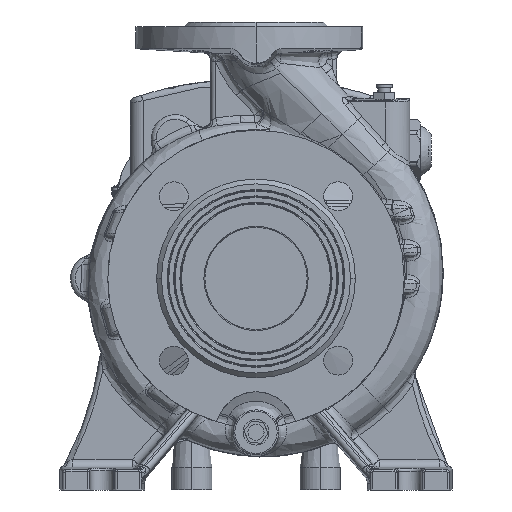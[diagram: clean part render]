
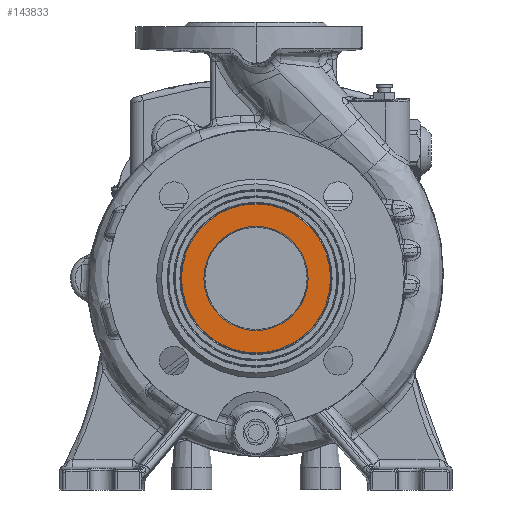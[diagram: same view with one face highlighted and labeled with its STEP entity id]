
A CAD part, left-side view. The second image highlights one B-rep face of the part: STEP entity #143833.
In plain terms, the highlighted planar face has unit normal (-1, 0, 0).
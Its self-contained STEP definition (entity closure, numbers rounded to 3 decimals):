
#4533 = CARTESIAN_POINT ( 'NONE',  ( -56., 46.5, 0. ) ) ;
#6979 = AXIS2_PLACEMENT_3D ( 'NONE', #115664, #71587, #173242 ) ;
#18674 = DIRECTION ( 'NONE',  ( 0., -1., 0. ) ) ;
#18725 = VERTEX_POINT ( 'NONE', #175329 ) ;
#19993 = CIRCLE ( 'NONE', #59820, 46.5 ) ;
#33572 = CARTESIAN_POINT ( 'NONE',  ( -56., 0., -46.5 ) ) ;
#37450 = CARTESIAN_POINT ( 'NONE',  ( -56., 32.5, 0. ) ) ;
#47970 = FACE_OUTER_BOUND ( 'NONE', #74274, .T. ) ;
#56591 = DIRECTION ( 'NONE',  ( 0., -1., 0. ) ) ;
#59820 = AXIS2_PLACEMENT_3D ( 'NONE', #108748, #167284, #18674 ) ;
#65150 = CIRCLE ( 'NONE', #6979, 46.5 ) ;
#66069 = EDGE_CURVE ( 'NONE', #145584, #18725, #133331, .T. ) ;
#71587 = DIRECTION ( 'NONE',  ( -1., 0., 0. ) ) ;
#74274 = EDGE_LOOP ( 'NONE', ( #115628, #110444 ) ) ;
#82361 = EDGE_CURVE ( 'NONE', #18725, #145584, #95862, .T. ) ;
#83453 = CARTESIAN_POINT ( 'NONE',  ( -56., 0., 0. ) ) ;
#91072 = PLANE ( 'NONE',  #141243 ) ;
#93918 = DIRECTION ( 'NONE',  ( 0., 1., 0. ) ) ;
#95862 = CIRCLE ( 'NONE', #113815, 32.5 ) ;
#99606 = EDGE_CURVE ( 'NONE', #109658, #189226, #65150, .T. ) ;
#106404 = FACE_BOUND ( 'NONE', #174162, .T. ) ;
#108748 = CARTESIAN_POINT ( 'NONE',  ( -56., 0., 0. ) ) ;
#109658 = VERTEX_POINT ( 'NONE', #145784 ) ;
#110444 = ORIENTED_EDGE ( 'NONE', *, *, #99606, .T. ) ;
#113815 = AXIS2_PLACEMENT_3D ( 'NONE', #83453, #141025, #56591 ) ;
#115628 = ORIENTED_EDGE ( 'NONE', *, *, #175858, .T. ) ;
#115664 = CARTESIAN_POINT ( 'NONE',  ( -56., 0., 0. ) ) ;
#124617 = DIRECTION ( 'NONE',  ( 1., 0., 0. ) ) ;
#133331 = CIRCLE ( 'NONE', #179161, 32.5 ) ;
#137431 = DIRECTION ( 'NONE',  ( -1., 0., 0. ) ) ;
#141025 = DIRECTION ( 'NONE',  ( -1., 0., 0. ) ) ;
#141243 = AXIS2_PLACEMENT_3D ( 'NONE', #33572, #124617, #93918 ) ;
#143833 = ADVANCED_FACE ( 'NONE', ( #47970, #106404 ), #91072, .F. ) ;
#145584 = VERTEX_POINT ( 'NONE', #37450 ) ;
#145784 = CARTESIAN_POINT ( 'NONE',  ( -56., -46.5, 0. ) ) ;
#148995 = CARTESIAN_POINT ( 'NONE',  ( -56., 0., 0. ) ) ;
#159194 = ORIENTED_EDGE ( 'NONE', *, *, #82361, .F. ) ;
#161778 = ORIENTED_EDGE ( 'NONE', *, *, #66069, .F. ) ;
#167284 = DIRECTION ( 'NONE',  ( -1., 0., 0. ) ) ;
#173242 = DIRECTION ( 'NONE',  ( 0., -1., 0. ) ) ;
#174162 = EDGE_LOOP ( 'NONE', ( #159194, #161778 ) ) ;
#175329 = CARTESIAN_POINT ( 'NONE',  ( -56., -32.5, 0. ) ) ;
#175858 = EDGE_CURVE ( 'NONE', #189226, #109658, #19993, .T. ) ;
#178679 = DIRECTION ( 'NONE',  ( 0., -1., 0. ) ) ;
#179161 = AXIS2_PLACEMENT_3D ( 'NONE', #148995, #137431, #178679 ) ;
#189226 = VERTEX_POINT ( 'NONE', #4533 ) ;
